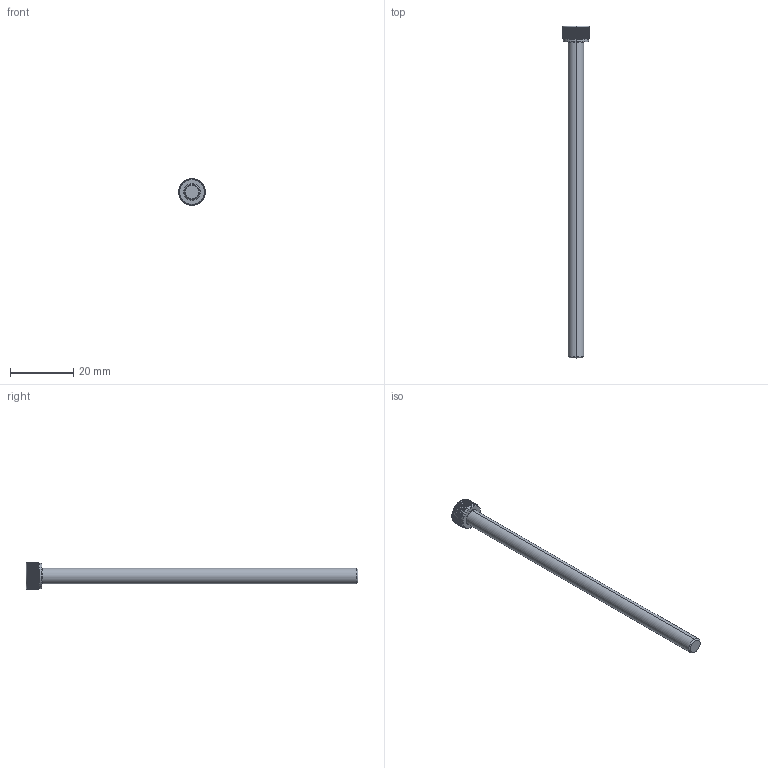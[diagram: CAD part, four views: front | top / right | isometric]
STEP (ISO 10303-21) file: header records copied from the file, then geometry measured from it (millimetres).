
FILE_DESCRIPTION (( 'STEP AP203' ), '1' );
FILE_NAME ('LGDT-304-M5x100.STEP', '2026-08-10T04:16:02', ( '' ), ( '' ), 'SwSTEP 2.0', 'SolidWorks 2020', '' );
FILE_SCHEMA (( 'CONFIG_CONTROL_DESIGN' ));
Length unit declared in the file: millimetre
Products named in the file (1): LGDT-304-M5x100
Bounding box: 8.4 x 105 x 8.4 mm (x, y, z)
Volume: 2191.5 mm3; surface area: 1839.5 mm2
Topology: 1 solids, 1 shells, 204 faces, 576 edges, 376 vertices
Faces by surface type: cylinder 175, cone 11, plane 10, torus 8
Entity records: 8367 total; most frequent: CARTESIAN_POINT 3208, ORIENTED_EDGE 1152, DIRECTION 988, EDGE_CURVE 576, AXIS2_PLACEMENT_3D 398, VERTEX_POINT 376, EDGE_LOOP 206, ADVANCED_FACE 204
